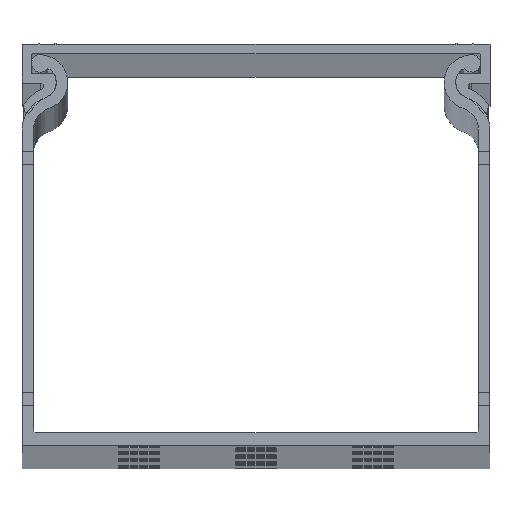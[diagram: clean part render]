
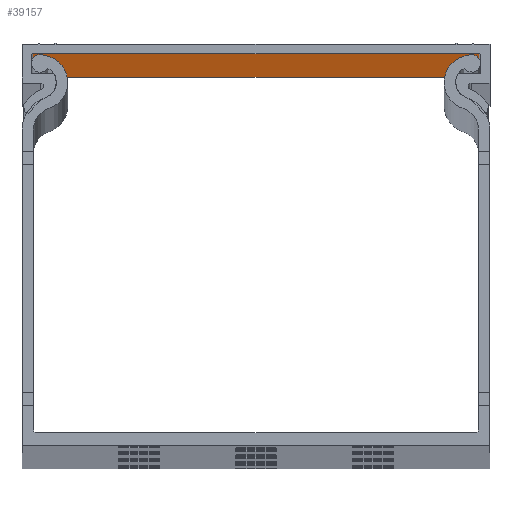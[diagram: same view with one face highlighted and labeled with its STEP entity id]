
A CAD part, top view. The second image highlights one B-rep face of the part: STEP entity #39157.
In plain terms, the highlighted planar face has unit normal (0, -1, 0).
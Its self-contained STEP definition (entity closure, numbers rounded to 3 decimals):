
#9 = DIRECTION ( 'NONE',  ( 0., 1., 0. ) ) ;
#532 = LINE ( 'NONE', #61363, #12415 ) ;
#680 = DIRECTION ( 'NONE',  ( 1., 0., 0. ) ) ;
#4344 = ORIENTED_EDGE ( 'NONE', *, *, #45991, .T. ) ;
#6781 = CARTESIAN_POINT ( 'NONE',  ( 2601.807, 1295.656, 2000. ) ) ;
#6972 = VERTEX_POINT ( 'NONE', #47281 ) ;
#10105 = LINE ( 'NONE', #39325, #29867 ) ;
#10797 = VERTEX_POINT ( 'NONE', #58881 ) ;
#12415 = VECTOR ( 'NONE', #680, 1000. ) ;
#13738 = ORIENTED_EDGE ( 'NONE', *, *, #22799, .F. ) ;
#19212 = ORIENTED_EDGE ( 'NONE', *, *, #50141, .F. ) ;
#22799 = EDGE_CURVE ( 'NONE', #44394, #59600, #40432, .T. ) ;
#25368 = ORIENTED_EDGE ( 'NONE', *, *, #29014, .T. ) ;
#27928 = CARTESIAN_POINT ( 'NONE',  ( 2601.807, 1295.656, 0. ) ) ;
#28529 = VECTOR ( 'NONE', #64986, 1000. ) ;
#29014 = EDGE_CURVE ( 'NONE', #6972, #59600, #532, .T. ) ;
#29794 = CARTESIAN_POINT ( 'NONE',  ( 2601.807, 1295.656, 2000. ) ) ;
#29867 = VECTOR ( 'NONE', #34682, 1000. ) ;
#34392 = CARTESIAN_POINT ( 'NONE',  ( 2568.407, 1295.656, 2000. ) ) ;
#34682 = DIRECTION ( 'NONE',  ( 0., 0., -1. ) ) ;
#35139 = FACE_OUTER_BOUND ( 'NONE', #59941, .T. ) ;
#35440 = DIRECTION ( 'NONE',  ( 0., 0., 1. ) ) ;
#36506 = LINE ( 'NONE', #34392, #28529 ) ;
#39157 = ADVANCED_FACE ( 'NONE', ( #35139 ), #55439, .F. ) ;
#39325 = CARTESIAN_POINT ( 'NONE',  ( 2535.007, 1295.656, 2000. ) ) ;
#40432 = LINE ( 'NONE', #6781, #57133 ) ;
#42222 = DIRECTION ( 'NONE',  ( 0., 0., -1. ) ) ;
#44394 = VERTEX_POINT ( 'NONE', #29794 ) ;
#45991 = EDGE_CURVE ( 'NONE', #10797, #6972, #10105, .T. ) ;
#47281 = CARTESIAN_POINT ( 'NONE',  ( 2535.007, 1295.656, 0. ) ) ;
#50141 = EDGE_CURVE ( 'NONE', #10797, #44394, #36506, .T. ) ;
#51846 = AXIS2_PLACEMENT_3D ( 'NONE', #55209, #9, #35440 ) ;
#55209 = CARTESIAN_POINT ( 'NONE',  ( 2568.407, 1295.656, 2000. ) ) ;
#55439 = PLANE ( 'NONE',  #51846 ) ;
#57133 = VECTOR ( 'NONE', #42222, 1000. ) ;
#58881 = CARTESIAN_POINT ( 'NONE',  ( 2535.007, 1295.656, 2000. ) ) ;
#59600 = VERTEX_POINT ( 'NONE', #27928 ) ;
#59941 = EDGE_LOOP ( 'NONE', ( #25368, #13738, #19212, #4344 ) ) ;
#61363 = CARTESIAN_POINT ( 'NONE',  ( 2568.407, 1295.656, 0. ) ) ;
#64986 = DIRECTION ( 'NONE',  ( 1., 0., 0. ) ) ;
